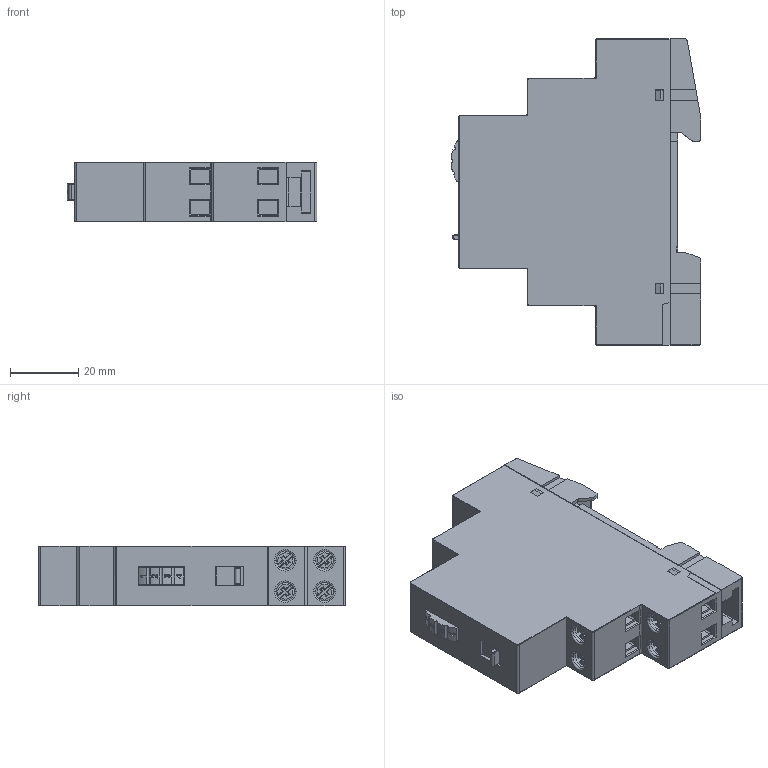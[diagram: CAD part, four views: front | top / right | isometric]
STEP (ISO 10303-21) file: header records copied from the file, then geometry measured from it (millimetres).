
FILE_DESCRIPTION (( 'STEP AP214' ), '1' );
FILE_NAME ('MQA_MQB_MQC.step', '2011-08-05T12:23:16', ( 'Radek Veselý' ), ( 'Siemens and Partners' ), 'SwSTEP 2.0', 'SolidWorks 2006303', '' );
FILE_SCHEMA (( 'AUTOMOTIVE_DESIGN' ));
Length unit declared in the file: millimetre
Products named in the file (1): MQA_MQB_MQC
Bounding box: 73.22 x 89.8 x 17.5 mm (x, y, z)
Volume: 58489.9 mm3; surface area: 30118.2 mm2
Topology: 12 solids, 12 shells, 851 faces, 2170 edges, 1361 vertices
Faces by surface type: plane 485, cylinder 192, bspline 126, torus 33, cone 12, sphere 3
Entity records: 39706 total; most frequent: CARTESIAN_POINT 10626, ORIENTED_EDGE 4314, DIRECTION 3629, EDGE_CURVE 2157, VECTOR 1401, LINE 1401, VERTEX_POINT 1361, AXIS2_PLACEMENT_3D 1114
